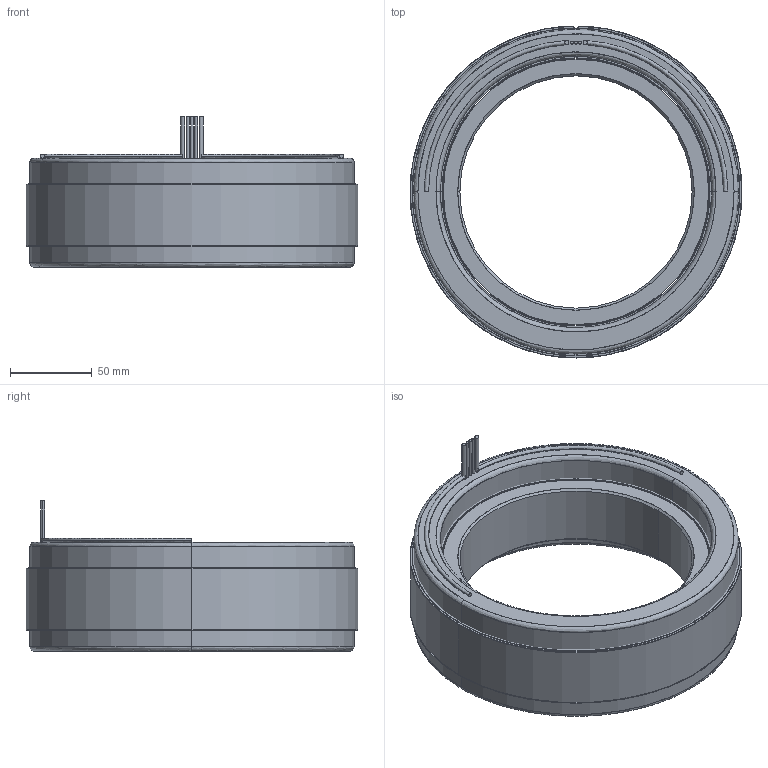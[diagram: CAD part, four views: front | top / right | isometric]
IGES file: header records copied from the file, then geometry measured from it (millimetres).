
Start section: SolidWorks IGES file using analytic representation for surfaces
Global section: file name: Z:\STANDARD STATOR ROTOR SETS\NEW DIRECT DRIVE MOTOR\8 OD 36S32P\6100326-03.IGS; native system: SolidWorks 2016; preprocessor: SolidWorks 2016; author: eng; date: 191023.162512; units: millimetre
Bounding box: 203.2 x 203.19 x 91.95 mm (x, y, z)
Surface area: 295411.2 mm2 (no closed solid volume)
Topology: 0 solids, 0 shells, 94 faces, 2568 edges, 2568 vertices
Faces by surface type: revolution 54, bspline 40
